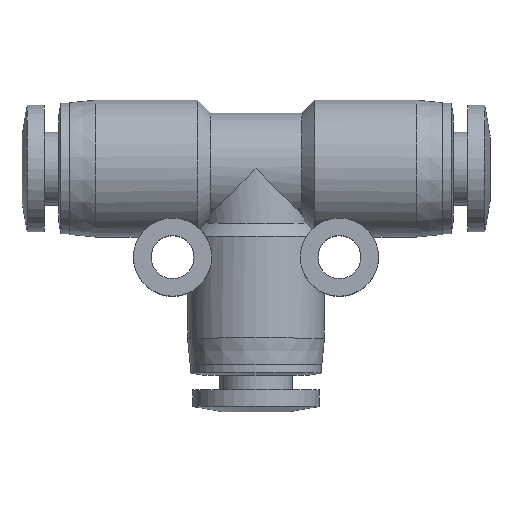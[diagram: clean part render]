
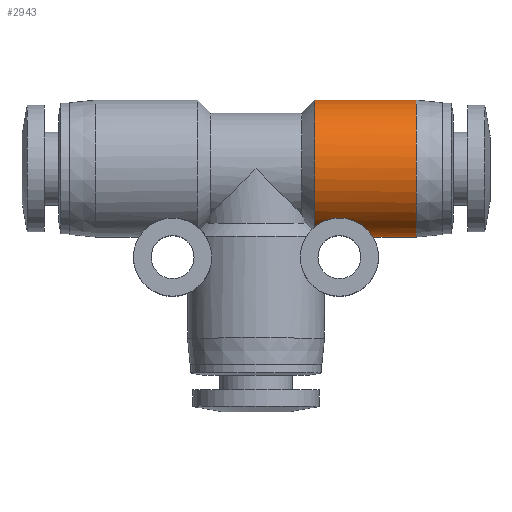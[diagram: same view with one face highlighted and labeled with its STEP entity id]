
A CAD part, top view. The second image highlights one B-rep face of the part: STEP entity #2943.
In plain terms, the highlighted cylindrical face has radius 5.25 mm (diameter 10.5 mm), a partial arc.
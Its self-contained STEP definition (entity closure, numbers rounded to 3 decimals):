
#36 = CARTESIAN_POINT ( 'NONE',  ( 4.5, 5.25, 0. ) ) ;
#41 = DIRECTION ( 'NONE',  ( 1., 0., 0. ) ) ;
#90 = CARTESIAN_POINT ( 'NONE',  ( 6.329, -3.783, 3.64 ) ) ;
#108 = CARTESIAN_POINT ( 'NONE',  ( 8.745, -4.929, 1.809 ) ) ;
#126 = CARTESIAN_POINT ( 'NONE',  ( 8.823, -5.03, 1.507 ) ) ;
#160 = CARTESIAN_POINT ( 'NONE',  ( 8.738, -4.92, 1.831 ) ) ;
#344 = CARTESIAN_POINT ( 'NONE',  ( 5.691, -3.88, 3.537 ) ) ;
#364 = CARTESIAN_POINT ( 'NONE',  ( 7.856, -4.177, 3.181 ) ) ;
#373 = CARTESIAN_POINT ( 'NONE',  ( 8.4, 0., 0. ) ) ;
#380 = CARTESIAN_POINT ( 'NONE',  ( 8.74, -4.923, 1.825 ) ) ;
#580 = CARTESIAN_POINT ( 'NONE',  ( 8.969, -5.25, 0. ) ) ;
#591 = ORIENTED_EDGE ( 'NONE', *, *, #1964, .T. ) ;
#624 = CARTESIAN_POINT ( 'NONE',  ( 5.135, -4.08, 3.304 ) ) ;
#633 = FACE_OUTER_BOUND ( 'NONE', #1816, .T. ) ;
#636 = VERTEX_POINT ( 'NONE', #580 ) ;
#640 = CARTESIAN_POINT ( 'NONE',  ( 8.513, -4.66, 2.432 ) ) ;
#655 = CARTESIAN_POINT ( 'NONE',  ( 7.823, -4.159, 3.204 ) ) ;
#672 = CARTESIAN_POINT ( 'NONE',  ( 5.125, -4.084, 3.299 ) ) ;
#804 = LINE ( 'NONE', #832, #2411 ) ;
#832 = CARTESIAN_POINT ( 'NONE',  ( 8.4, -5.25, 0. ) ) ;
#864 = ORIENTED_EDGE ( 'NONE', *, *, #3350, .T. ) ;
#874 = ORIENTED_EDGE ( 'NONE', *, *, #1421, .T. ) ;
#879 = CARTESIAN_POINT ( 'NONE',  ( 7.818, -4.156, 3.208 ) ) ;
#907 = CARTESIAN_POINT ( 'NONE',  ( 12.3, 5.25, 0. ) ) ;
#918 = CARTESIAN_POINT ( 'NONE',  ( 8.891, -5.126, 1.147 ) ) ;
#950 = AXIS2_PLACEMENT_3D ( 'NONE', #2777, #2159, #2476 ) ;
#1107 = CIRCLE ( 'NONE', #950, 5.25 ) ;
#1140 = CARTESIAN_POINT ( 'NONE',  ( 5.238, -4.034, 3.36 ) ) ;
#1154 = CARTESIAN_POINT ( 'NONE',  ( 12.3, 0., 0. ) ) ;
#1158 = CARTESIAN_POINT ( 'NONE',  ( 5.29, -4.012, 3.386 ) ) ;
#1173 = EDGE_CURVE ( 'NONE', #2189, #1464, #1848, .T. ) ;
#1177 = CARTESIAN_POINT ( 'NONE',  ( 7.558, -4.018, 3.387 ) ) ;
#1394 = CARTESIAN_POINT ( 'NONE',  ( 5.846, -3.847, 3.573 ) ) ;
#1416 = CARTESIAN_POINT ( 'NONE',  ( 7.989, -4.254, 3.078 ) ) ;
#1421 = EDGE_CURVE ( 'NONE', #1436, #2483, #1107, .T. ) ;
#1433 = CARTESIAN_POINT ( 'NONE',  ( 8.799, -4.998, 1.61 ) ) ;
#1436 = VERTEX_POINT ( 'NONE', #36 ) ;
#1448 = DIRECTION ( 'NONE',  ( 0., 1., 0. ) ) ;
#1450 = CARTESIAN_POINT ( 'NONE',  ( 8.197, -4.395, 2.874 ) ) ;
#1464 = VERTEX_POINT ( 'NONE', #3023 ) ;
#1470 = CARTESIAN_POINT ( 'NONE',  ( 4.5, -4.478, 2.74 ) ) ;
#1476 = EDGE_CURVE ( 'NONE', #1436, #2189, #2195, .T. ) ;
#1534 = B_SPLINE_CURVE_WITH_KNOTS ( 'NONE', 3,
 ( #1470, #1735, #2548, #672, #624, #2473, #3002, #1140, #1158, #1686, #2514, #344, #1394, #90, #2214, #3286, #1177, #879, #655, #2758, #364, #2233, #1416, #2250, #1450, #2493, #640, #1983, #160, #380, #108, #3038, #1703, #1433, #126, #3324, #918, #3056, #1718, #2794 ),
 .UNSPECIFIED., .F., .F.,
 ( 4, 2, 2, 1, 1, 2, 2, 2, 2, 2, 2, 1, 1, 1, 2, 2, 2, 2, 1, 1, 1, 2, 2, 4 ),
 ( 0., 0.062, 0.064, 0.066, 0.07, 0.078, 0.094, 0.125, 0.187, 0.25, 0.252, 0.254, 0.258, 0.266, 0.281, 0.312, 0.375, 0.377, 0.379, 0.383, 0.391, 0.406, 0.437, 0.5 ),
 .UNSPECIFIED. ) ;
#1686 = CARTESIAN_POINT ( 'NONE',  ( 5.397, -3.971, 3.434 ) ) ;
#1701 = DIRECTION ( 'NONE',  ( 1., 0., 0. ) ) ;
#1703 = CARTESIAN_POINT ( 'NONE',  ( 8.768, -4.958, 1.727 ) ) ;
#1718 = CARTESIAN_POINT ( 'NONE',  ( 8.969, -5.25, 0.352 ) ) ;
#1735 = CARTESIAN_POINT ( 'NONE',  ( 4.674, -4.336, 2.973 ) ) ;
#1750 = ORIENTED_EDGE ( 'NONE', *, *, #1173, .F. ) ;
#1816 = EDGE_LOOP ( 'NONE', ( #864, #591, #1750, #3100, #874 ) ) ;
#1848 = CIRCLE ( 'NONE', #2741, 5.25 ) ;
#1964 = EDGE_CURVE ( 'NONE', #636, #1464, #804, .T. ) ;
#1983 = CARTESIAN_POINT ( 'NONE',  ( 8.638, -4.797, 2.161 ) ) ;
#2159 = DIRECTION ( 'NONE',  ( 1., 0., 0. ) ) ;
#2189 = VERTEX_POINT ( 'NONE', #907 ) ;
#2195 = LINE ( 'NONE', #3097, #3197 ) ;
#2214 = CARTESIAN_POINT ( 'NONE',  ( 6.647, -3.793, 3.631 ) ) ;
#2233 = CARTESIAN_POINT ( 'NONE',  ( 7.901, -4.202, 3.148 ) ) ;
#2250 = CARTESIAN_POINT ( 'NONE',  ( 8.06, -4.3, 3.013 ) ) ;
#2289 = DIRECTION ( 'NONE',  ( 1., 0., 0. ) ) ;
#2338 = AXIS2_PLACEMENT_3D ( 'NONE', #373, #2289, #3011 ) ;
#2411 = VECTOR ( 'NONE', #41, 1000. ) ;
#2473 = CARTESIAN_POINT ( 'NONE',  ( 5.152, -4.072, 3.314 ) ) ;
#2476 = DIRECTION ( 'NONE',  ( 0., 1., 0. ) ) ;
#2483 = VERTEX_POINT ( 'NONE', #2955 ) ;
#2493 = CARTESIAN_POINT ( 'NONE',  ( 8.282, -4.46, 2.772 ) ) ;
#2514 = CARTESIAN_POINT ( 'NONE',  ( 5.469, -3.947, 3.462 ) ) ;
#2516 = DIRECTION ( 'NONE',  ( 1., 0., 0. ) ) ;
#2548 = CARTESIAN_POINT ( 'NONE',  ( 4.88, -4.2, 3.155 ) ) ;
#2741 = AXIS2_PLACEMENT_3D ( 'NONE', #1154, #1701, #1448 ) ;
#2758 = CARTESIAN_POINT ( 'NONE',  ( 7.837, -4.166, 3.195 ) ) ;
#2777 = CARTESIAN_POINT ( 'NONE',  ( 4.5, 0., 0. ) ) ;
#2794 = CARTESIAN_POINT ( 'NONE',  ( 8.969, -5.25, 0. ) ) ;
#2943 = ADVANCED_FACE ( 'NONE', ( #633 ), #3278, .T. ) ;
#2955 = CARTESIAN_POINT ( 'NONE',  ( 4.5, -4.478, 2.74 ) ) ;
#3002 = CARTESIAN_POINT ( 'NONE',  ( 5.178, -4.06, 3.328 ) ) ;
#3011 = DIRECTION ( 'NONE',  ( 0., 1., 0. ) ) ;
#3023 = CARTESIAN_POINT ( 'NONE',  ( 12.3, -5.25, 0. ) ) ;
#3038 = CARTESIAN_POINT ( 'NONE',  ( 8.752, -4.937, 1.785 ) ) ;
#3056 = CARTESIAN_POINT ( 'NONE',  ( 8.949, -5.215, 0.685 ) ) ;
#3097 = CARTESIAN_POINT ( 'NONE',  ( 8.4, 5.25, 0. ) ) ;
#3100 = ORIENTED_EDGE ( 'NONE', *, *, #1476, .F. ) ;
#3197 = VECTOR ( 'NONE', #2516, 1000. ) ;
#3278 = CYLINDRICAL_SURFACE ( 'NONE', #2338, 5.25 ) ;
#3286 = CARTESIAN_POINT ( 'NONE',  ( 7.274, -3.914, 3.501 ) ) ;
#3324 = CARTESIAN_POINT ( 'NONE',  ( 8.866, -5.09, 1.295 ) ) ;
#3350 = EDGE_CURVE ( 'NONE', #2483, #636, #1534, .T. ) ;
